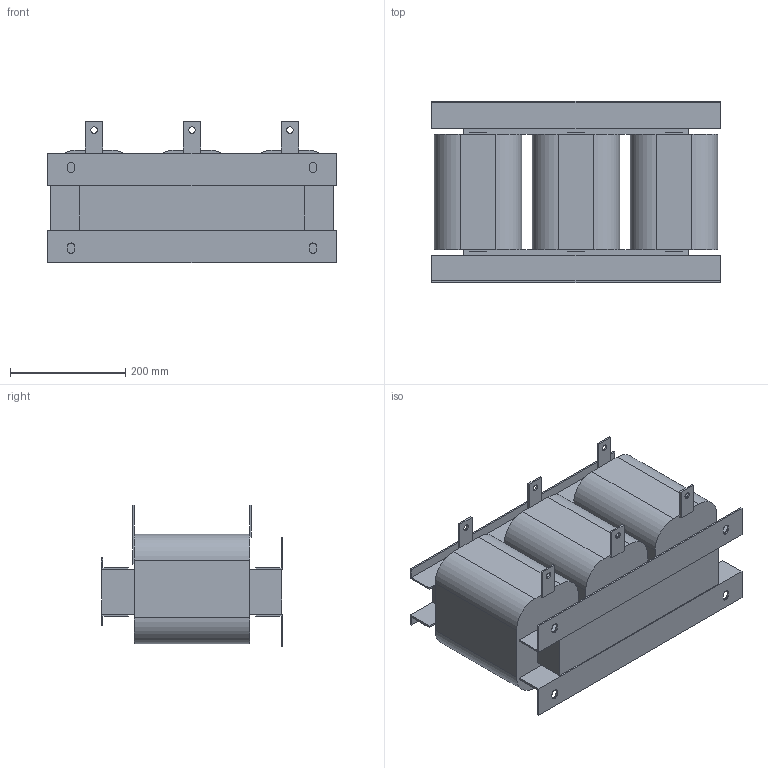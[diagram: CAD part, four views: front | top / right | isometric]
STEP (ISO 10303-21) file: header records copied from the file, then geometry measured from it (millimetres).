
FILE_DESCRIPTION(/* description */ (''),/* implementation_level */ '2;1');
FILE_NAME(/* name */ 'E:\Работа\Веда МК (Данфосс)\!Текущие задачи\2024.08.30 3D модели\Дроссели\+ACO 4-проц 660 В\STP\ACO-0198-T6-4.stp',/* time_stamp */ '2024-10-12T11:17:53+04:00',/* author */ ('Александр (огранич)'),/* organization */ (''),/* preprocessor_version */ 'ST-DEVELOPER v18.1',/* originating_system */ 'Autodesk Inventor 2021',/* authorisation */ '');
FILE_SCHEMA (('AUTOMOTIVE_DESIGN { 1 0 10303 214 3 1 1 }'));
Length unit declared in the file: millimetre
Products named in the file (1): ACO-0015-T4-4
Bounding box: 500 x 315 x 245 mm (x, y, z)
Volume: 20222381.7 mm3; surface area: 863384.2 mm2
Topology: 1 solids, 1 shells, 136 faces, 381 edges, 243 vertices
Faces by surface type: plane 110, cylinder 26
Full cylindrical faces by diameter (mm): 11 x6
Entity records: 4385 total; most frequent: ORIENTED_EDGE 762, CARTESIAN_POINT 761, DIRECTION 710, EDGE_CURVE 381, LINE 326, VECTOR 326, VERTEX_POINT 243, AXIS2_PLACEMENT_3D 192
